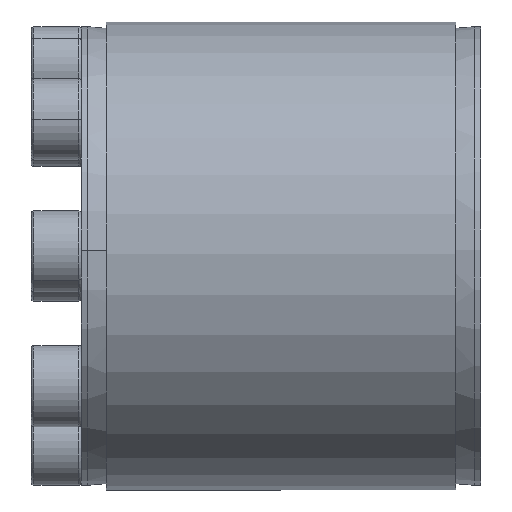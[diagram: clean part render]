
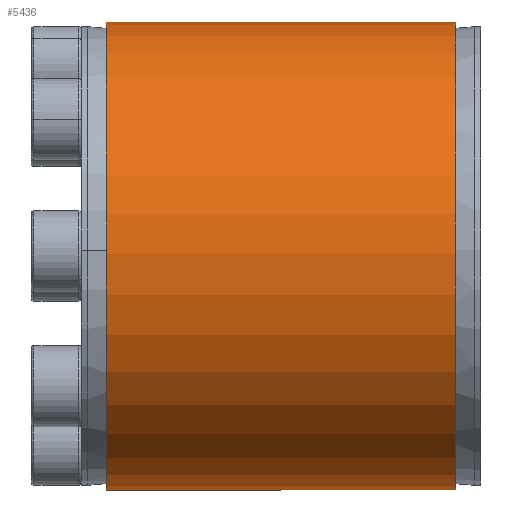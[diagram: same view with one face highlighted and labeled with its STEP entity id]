
A CAD part, top view. The second image highlights one B-rep face of the part: STEP entity #5436.
In plain terms, the highlighted cylindrical face has radius 37.5 mm (diameter 75 mm), a partial arc.
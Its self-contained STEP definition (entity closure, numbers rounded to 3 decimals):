
#152 = EDGE_CURVE ( 'NONE', #3413, #590, #3883, .T. ) ;
#353 = EDGE_CURVE ( 'NONE', #3413, #4440, #6525, .T. ) ;
#590 = VERTEX_POINT ( 'NONE', #2534 ) ;
#658 = ORIENTED_EDGE ( 'NONE', *, *, #3669, .T. ) ;
#831 = CARTESIAN_POINT ( 'NONE',  ( 39.663, -0.54, 0. ) ) ;
#1142 = VECTOR ( 'NONE', #4998, 1000. ) ;
#1350 = AXIS2_PLACEMENT_3D ( 'NONE', #2168, #5754, #2691 ) ;
#1462 = AXIS2_PLACEMENT_3D ( 'NONE', #831, #3910, #1856 ) ;
#1485 = DIRECTION ( 'NONE',  ( 1., 0., 0. ) ) ;
#1640 = CYLINDRICAL_SURFACE ( 'NONE', #1462, 37.5 ) ;
#1856 = DIRECTION ( 'NONE',  ( 0., 1., -0.005 ) ) ;
#2028 = CARTESIAN_POINT ( 'NONE',  ( 39.663, -38.04, 0.181 ) ) ;
#2069 = CARTESIAN_POINT ( 'NONE',  ( 34.602, -38.04, 0.181 ) ) ;
#2100 = LINE ( 'NONE', #2028, #4828 ) ;
#2168 = CARTESIAN_POINT ( 'NONE',  ( -21.398, -0.54, 0. ) ) ;
#2534 = CARTESIAN_POINT ( 'NONE',  ( 34.602, 36.959, -0.181 ) ) ;
#2606 = EDGE_CURVE ( 'NONE', #590, #4899, #6105, .T. ) ;
#2691 = DIRECTION ( 'NONE',  ( 0., 1., -0.005 ) ) ;
#3413 = VERTEX_POINT ( 'NONE', #5918 ) ;
#3432 = ORIENTED_EDGE ( 'NONE', *, *, #353, .T. ) ;
#3669 = EDGE_CURVE ( 'NONE', #4440, #4899, #2100, .T. ) ;
#3883 = LINE ( 'NONE', #5527, #1142 ) ;
#3910 = DIRECTION ( 'NONE',  ( 1., 0., 0. ) ) ;
#4023 = CARTESIAN_POINT ( 'NONE',  ( -21.398, -38.04, 0.181 ) ) ;
#4214 = ORIENTED_EDGE ( 'NONE', *, *, #2606, .F. ) ;
#4440 = VERTEX_POINT ( 'NONE', #4023 ) ;
#4512 = EDGE_LOOP ( 'NONE', ( #3432, #658, #4214, #5429 ) ) ;
#4551 = CARTESIAN_POINT ( 'NONE',  ( 34.602, -0.54, 0. ) ) ;
#4828 = VECTOR ( 'NONE', #5089, 1000. ) ;
#4899 = VERTEX_POINT ( 'NONE', #2069 ) ;
#4998 = DIRECTION ( 'NONE',  ( 1., 0., 0. ) ) ;
#5059 = DIRECTION ( 'NONE',  ( 0., 1., -0.005 ) ) ;
#5089 = DIRECTION ( 'NONE',  ( 1., 0., 0. ) ) ;
#5429 = ORIENTED_EDGE ( 'NONE', *, *, #152, .F. ) ;
#5436 = ADVANCED_FACE ( 'NONE', ( #5909 ), #1640, .T. ) ;
#5527 = CARTESIAN_POINT ( 'NONE',  ( 39.663, 36.959, -0.181 ) ) ;
#5754 = DIRECTION ( 'NONE',  ( 1., 0., 0. ) ) ;
#5909 = FACE_OUTER_BOUND ( 'NONE', #4512, .T. ) ;
#5918 = CARTESIAN_POINT ( 'NONE',  ( -21.398, 36.959, -0.181 ) ) ;
#6105 = CIRCLE ( 'NONE', #6600, 37.5 ) ;
#6525 = CIRCLE ( 'NONE', #1350, 37.5 ) ;
#6600 = AXIS2_PLACEMENT_3D ( 'NONE', #4551, #1485, #5059 ) ;
